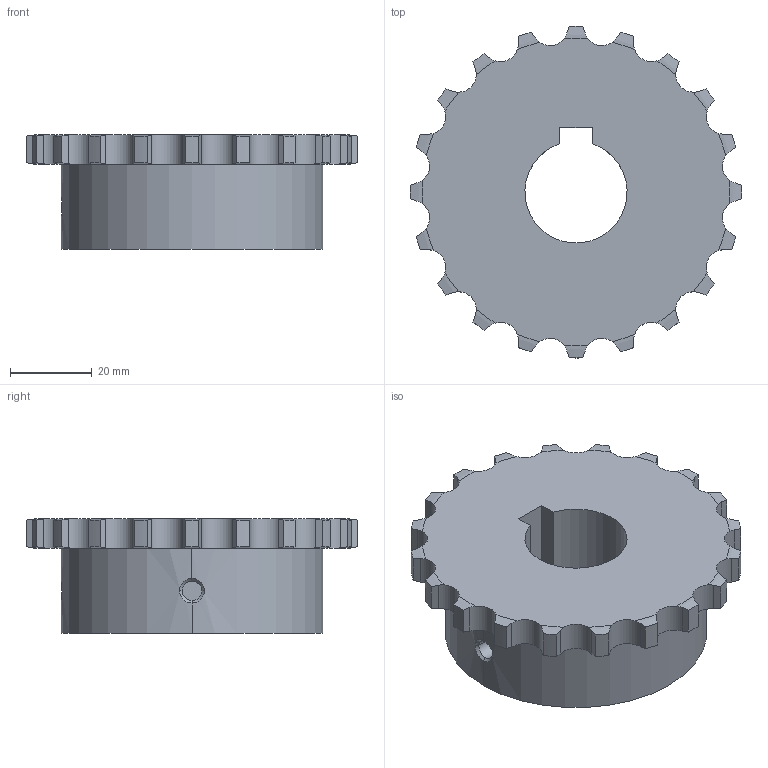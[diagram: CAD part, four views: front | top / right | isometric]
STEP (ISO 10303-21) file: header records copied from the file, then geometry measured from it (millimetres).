
FILE_DESCRIPTION((''),'2;1');
FILE_NAME('510-201-2520_PRT','2021-02-13T',('Brieden'),('Brieden'),'PRO/ENGINEER BY PARAMETRIC TECHNOLOGY CORPORATION, 2010160','PRO/ENGINEER BY PARAMETRIC TECHNOLOGY CORPORATION, 2010160','');
FILE_SCHEMA(('AUTOMOTIVE_DESIGN { 1 0 10303 214 1 1 1 1 }'));
Length unit declared in the file: millimetre
Products named in the file (1): 510-201-2520_PRT
Bounding box: 81.18 x 81.18 x 28 mm (x, y, z)
Volume: 84962.7 mm3; surface area: 17475.8 mm2
Topology: 1 solids, 1 shells, 141 faces, 405 edges, 268 vertices
Faces by surface type: cylinder 87, torus 40, plane 8, bspline 6
Entity records: 6848 total; most frequent: CARTESIAN_POINT 2097, ORIENTED_EDGE 810, DIRECTION 633, PRESENTATION_STYLE_ASSIGNMENT 406, STYLED_ITEM 406, CURVE_STYLE 405, EDGE_CURVE 405, VERTEX_POINT 268
